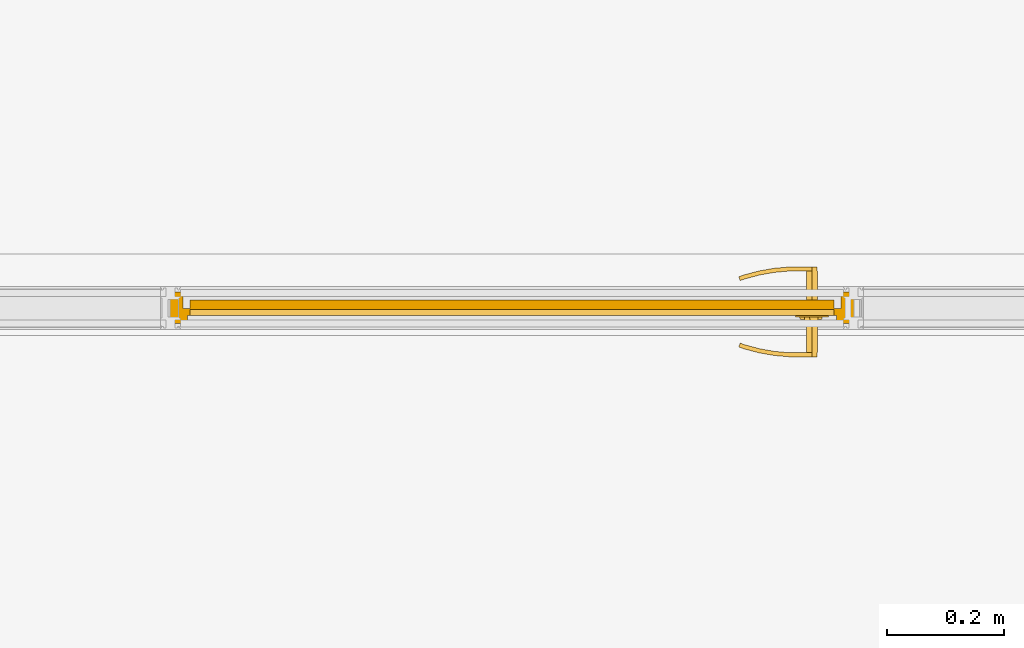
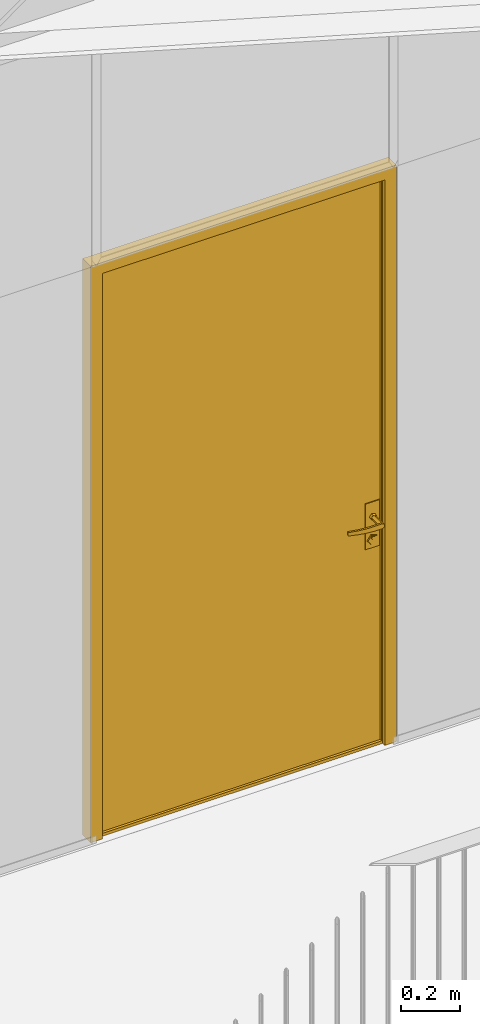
# One storey, part 32 of 43: 1 door, 1 element without a shape of its own.
"""IFC2X3 building model written with IfcOpenShell, lengths in millimetres."""

from ifc_helpers import new_model, entity, si_unit, converted_unit, derived_unit, money_unit, direction, frame, origin_with_axes, place, context, subcontext, project, spatial, open_shell, faceted_brep, surface_model, material, material_list, type_object, element, aggregate, save


model = new_model("IFC2X3")

# Units and contexts
model_context = context("Model", 3, precision=0.01, world=origin_with_axes(), true_north=direction((0.0, 1.0)))
body_context = subcontext(model_context, "Body", "Model", "MODEL_VIEW")
ifc_project = project(units=[si_unit("LENGTHUNIT", "METRE", prefix="MILLI"), si_unit("AREAUNIT", "SQUARE_METRE"), si_unit("VOLUMEUNIT", "CUBIC_METRE"), converted_unit("PLANEANGLEUNIT", "DEGREE", entity("IfcPlaneAngleMeasure", 0.0174532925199), si_unit("PLANEANGLEUNIT", "RADIAN"), dimensions=[0, 0, 0, 0, 0, 0, 0]), si_unit("SOLIDANGLEUNIT", "STERADIAN"), money_unit("EUR"), converted_unit("TIMEUNIT", "Year", entity("IfcTimeMeasure", 31556926.0), si_unit("TIMEUNIT", "SECOND"), dimensions=[0, 0, 1, 0, 0, 0, 0]), si_unit("MASSUNIT", "GRAM", prefix="KILO"), si_unit("THERMODYNAMICTEMPERATUREUNIT", "DEGREE_CELSIUS"), si_unit("LUMINOUSINTENSITYUNIT", "LUMEN"), si_unit("ENERGYUNIT", "JOULE", prefix="MEGA"), derived_unit("THERMALCONDUCTANCEUNIT", [(si_unit("POWERUNIT", "WATT"), 1), (si_unit("LENGTHUNIT", "METRE"), -1), (si_unit("THERMODYNAMICTEMPERATUREUNIT", "KELVIN"), -1)]), derived_unit("SPECIFICHEATCAPACITYUNIT", [(si_unit("ENERGYUNIT", "JOULE"), 1), (si_unit("MASSUNIT", "GRAM", prefix="KILO"), -1), (si_unit("THERMODYNAMICTEMPERATUREUNIT", "KELVIN"), -1)]), derived_unit("MASSDENSITYUNIT", [(si_unit("MASSUNIT", "GRAM", prefix="KILO"), 1), (si_unit("VOLUMEUNIT", "CUBIC_METRE"), -1)])], contexts=[model_context])

# Site, building, storey
site_placement = place(None, origin_with_axes())
site = spatial("IfcSite", under=ifc_project, at=site_placement, Name="L.Koidula tn 11b", CompositionType="ELEMENT")
building_placement = place(site_placement, origin_with_axes())
building = spatial("IfcBuilding", under=site, at=building_placement, Name="Rakvere Riigigümnaasium", CompositionType="ELEMENT")
storey_placement = place(building_placement, frame((0.0, 0.0, 6665.0), z_axis=(0.0, 0.0, 1.0), x_axis=(1.0, 0.0, 0.0)))
storey = spatial("IfcBuildingStorey", under=building, at=storey_placement, Name="3.korrus +6,66", CompositionType="ELEMENT", Elevation=6665.0)

# Curtain wall, door
curtain_wall_type = type_object("IfcCurtainWallType", Name="Curtain Wall Type", PredefinedType="NOTDEFINED")
curtain_wall_placement = place(storey_placement, frame((58878.6347232, 19272.4397072, 0.0), z_axis=(0.0, 0.0, 1.0), x_axis=(1.0, 0.0, 0.0)))
curtain_wall = element("IfcCurtainWall", 1, at=curtain_wall_placement, inside=storey, type_object=curtain_wall_type, Name="SKLF-29")
ifc_material_1 = material(Name="Alumiiniumprofiil")
ifc_material_2 = material(Name="VKR-05_Klaas")
ifc_material_3 = material(Name="ET-07_Teras - Roostevaba")
ifc_material_list = material_list([ifc_material_1, ifc_material_2, ifc_material_3])
door_style = type_object("IfcDoorStyle", Name="Siseklaasfassaad - Klaasuks-Doubleline 17 x 2370 x -5", ConstructionType="NOTDEFINED", OperationType="NOTDEFINED", ParameterTakesPrecedence=False, Sizeable=False)
door_placement = place(curtain_wall_placement, frame((1056.3999989, 0.0, 1200.0), z_axis=(0.0, 0.0, 1.0), x_axis=(-1.0, 0.0, 0.0)))
door = element("IfcDoor", 2, at=door_placement, type_object=door_style, material=ifc_material_list, Name="Panel-Siseklaasf-007", ObjectType="DOOR", context=body_context, shape_type="SurfaceModel", body=[
    faceted_brep([(-601.99999441, 7.5, -1200.0), (-601.99999441, 7.5, 1200.0), (-601.99999441, 21.5, 1200.0), (-601.99999441, 21.5, -1200.0), (-555.99999441, 7.5, -1200.0), (-555.99999441, 7.5, 1154.0), (-555.99999441, 21.5, 1154.0), (-555.99999441, 21.5, -1200.0)], [[[0, 1, 2, 3]], [[0, 4, 5, 1]], [[1, 5, 6, 2]], [[3, 2, 6, 7]], [[4, 0, 3, 7]], [[5, 4, 7, 6]]]),
    faceted_brep([(602.00000559, 7.5, 1200.0), (556.00000559, 7.5, 1154.0), (556.00000559, 21.5, 1154.0), (602.00000559, 21.5, 1200.0), (-601.99999441, 7.5, 1200.0), (-555.99999441, 7.5, 1154.0), (-555.99999441, 21.5, 1154.0), (-601.99999441, 21.5, 1200.0)], [[[0, 1, 2, 3]], [[0, 4, 5, 1]], [[1, 5, 6, 2]], [[3, 2, 6, 7]], [[4, 0, 3, 7]], [[5, 4, 7, 6]]]),
    faceted_brep([(602.00000559, 7.5, -1200.0), (556.00000559, 7.5, -1200.0), (556.00000559, 21.5, -1200.0), (602.00000559, 21.5, -1200.0), (602.00000559, 7.5, 1200.0), (556.00000559, 7.5, 1154.0), (556.00000559, 21.5, 1154.0), (602.00000559, 21.5, 1200.0)], [[[0, 1, 2, 3]], [[0, 4, 5, 1]], [[1, 5, 6, 2]], [[3, 2, 6, 7]], [[4, 0, 3, 7]], [[5, 4, 7, 6]]]),
    faceted_brep([(-601.99999441, -32.5, -1200.0), (-601.99999441, -32.5, 1200.0), (-601.99999441, 7.5, 1200.0), (-601.99999441, 7.5, -1200.0), (-563.99999441, -32.5, -1200.0), (-563.99999441, -32.5, 1162.0), (-563.99999441, 7.5, 1162.0), (-563.99999441, 7.5, -1200.0)], [[[0, 1, 2, 3]], [[0, 4, 5, 1]], [[1, 5, 6, 2]], [[3, 2, 6, 7]], [[4, 0, 3, 7]], [[5, 4, 7, 6]]]),
    faceted_brep([(602.00000559, -32.5, 1200.0), (564.00000559, -32.5, 1162.0), (564.00000559, 7.5, 1162.0), (602.00000559, 7.5, 1200.0), (-601.99999441, -32.5, 1200.0), (-563.99999441, -32.5, 1162.0), (-563.99999441, 7.5, 1162.0), (-601.99999441, 7.5, 1200.0)], [[[0, 1, 2, 3]], [[0, 4, 5, 1]], [[1, 5, 6, 2]], [[3, 2, 6, 7]], [[4, 0, 3, 7]], [[5, 4, 7, 6]]]),
    faceted_brep([(602.00000559, -32.5, -1200.0), (564.00000559, -32.5, -1200.0), (564.00000559, 7.5, -1200.0), (602.00000559, 7.5, -1200.0), (602.00000559, -32.5, 1200.0), (564.00000559, -32.5, 1162.0), (564.00000559, 7.5, 1162.0), (602.00000559, 7.5, 1200.0)], [[[0, 1, 2, 3]], [[0, 4, 5, 1]], [[1, 5, 6, 2]], [[3, 2, 6, 7]], [[4, 0, 3, 7]], [[5, 4, 7, 6]]]),
    faceted_brep([(-601.99999441, -2.5, 1200.0), (602.00000559, -2.5, 1200.0), (602.00000559, 2.5, 1200.0), (-601.99999441, 2.5, 1200.0), (-601.99999441, -2.5, 1185.0), (602.00000559, -2.5, 1185.0), (602.00000559, 2.5, 1185.0), (-601.99999441, 2.5, 1185.0)], [[[0, 1, 2, 3]], [[0, 4, 5, 1]], [[1, 5, 6, 2]], [[3, 2, 6, 7]], [[4, 0, 3, 7]], [[5, 4, 7, 6]]]),
    faceted_brep([(552.00000559, 7.5, -1188.0), (552.00000559, -4.5, -1188.0), (552.00000559, -4.5, 1150.0), (552.00000559, 7.5, 1150.0), (564.00000559, 7.5, -1200.0), (564.00000559, -4.5, -1200.0), (564.00000559, -4.5, 1162.0), (564.00000559, 7.5, 1162.0)], [[[0, 1, 2, 3]], [[4, 5, 1, 0]], [[1, 5, 6, 2]], [[3, 2, 6, 7]], [[0, 3, 7, 4]], [[7, 6, 5, 4]]]),
    faceted_brep([(-563.99999441, 7.5, -1200.0), (-563.99999441, -4.5, -1200.0), (-563.99999441, -4.5, 1162.0), (-563.99999441, 7.5, 1162.0), (-551.99999441, 7.5, -1188.0), (-551.99999441, -4.5, -1188.0), (-551.99999441, -4.5, 1150.0), (-551.99999441, 7.5, 1150.0)], [[[0, 1, 2, 3]], [[4, 5, 1, 0]], [[1, 5, 6, 2]], [[3, 2, 6, 7]], [[0, 3, 7, 4]], [[7, 6, 5, 4]]]),
    faceted_brep([(-563.99999441, 7.5, -1200.0), (-563.99999441, -4.5, -1200.0), (-551.99999441, -4.5, -1188.0), (-551.99999441, 7.5, -1188.0), (564.00000559, 7.5, -1200.0), (564.00000559, -4.5, -1200.0), (552.00000559, -4.5, -1188.0), (552.00000559, 7.5, -1188.0)], [[[0, 1, 2, 3]], [[4, 5, 1, 0]], [[1, 5, 6, 2]], [[3, 2, 6, 7]], [[0, 3, 7, 4]], [[7, 6, 5, 4]]]),
    faceted_brep([(564.00000559, 7.5, 1162.0), (564.00000559, -4.5, 1162.0), (552.00000559, -4.5, 1150.0), (552.00000559, 7.5, 1150.0), (-563.99999441, 7.5, 1162.0), (-563.99999441, -4.5, 1162.0), (-551.99999441, -4.5, 1150.0), (-551.99999441, 7.5, 1150.0)], [[[0, 1, 2, 3]], [[4, 5, 1, 0]], [[1, 5, 6, 2]], [[3, 2, 6, 7]], [[0, 3, 7, 4]], [[7, 6, 5, 4]]]),
    faceted_brep([(552.00000559, -2.5, -1188.0), (552.00000559, -18.5, -1188.0), (-551.99999441, -18.5, -1188.0), (-551.99999441, -2.5, -1188.0), (552.00000559, -2.5, 1150.0), (552.00000559, -18.5, 1150.0), (-551.99999441, -18.5, 1150.0), (-551.99999441, -2.5, 1150.0)], [[[0, 1, 2, 3]], [[4, 5, 1, 0]], [[1, 5, 6, 2]], [[3, 2, 6, 7]], [[0, 3, 7, 4]], [[7, 6, 5, 4]]]),
    faceted_brep([(-542.49999441, -4.5, -178.0), (-542.49999441, -7.5, -178.0), (-485.49999441, -7.5, -178.0), (-485.49999441, -4.5, -178.0), (-542.49999441, -4.5, -368.0), (-542.49999441, -7.5, -368.0), (-485.49999441, -7.5, -368.0), (-485.49999441, -4.5, -368.0)], [[[0, 1, 2, 3]], [[4, 5, 1, 0]], [[1, 5, 6, 2]], [[3, 2, 6, 7]], [[0, 3, 7, 4]], [[7, 6, 5, 4]]]),
    surface_model("IfcShellBasedSurfaceModel", [(-513.99999441, -68.5, -248.0), (-513.99999441, -75.5, -248.0), (-522.660248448, -75.5, -243.0), (-522.660248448, -68.5, -243.0), (-488.99999441, -68.5, -248.0), (-488.99999441, -75.5, -248.0), (-488.99999441, -75.5, -228.0), (-513.99999441, -75.5, -228.0), (-522.660248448, -75.5, -233.0), (-522.660248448, -68.5, -233.0), (-513.99999441, -68.5, -228.0), (-488.99999441, -68.5, -228.0)], [open_shell([[[0, 1, 2, 3]], [[4, 5, 1, 0]], [[1, 5, 6, 7, 8, 2]], [[3, 2, 8, 9]], [[0, 3, 9, 10, 11, 4]], [[10, 7, 6, 11]], [[9, 8, 7, 10]]])]),
    surface_model("IfcShellBasedSurfaceModel", [(-488.99999441, -68.5, -228.0), (-475.596084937, -75.5, -228.392699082), (-475.901711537, -68.5, -228.392699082), (-488.99999441, -75.5, -228.0), (-448.890277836, -73.1635446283, -229.178097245), (-475.901711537, -68.5, -247.607300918), (-488.99999441, -68.5, -248.0), (-488.99999441, -75.5, -248.0), (-475.596084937, -75.5, -247.607300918), (-448.890277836, -73.1635446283, -246.821902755), (-449.804831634, -66.216818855, -229.178097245), (-449.804831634, -66.216818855, -246.821902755), (-422.489729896, -68.5084157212, -246.036504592), (-422.489729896, -68.5084157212, -229.963495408), (-424.006250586, -61.6678329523, -229.963495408), (-424.006250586, -61.6678329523, -246.036504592), (-396.59536523, -61.5700416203, -245.251106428), (-396.59536523, -61.5700416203, -230.748893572), (-398.702311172, -54.8876628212, -230.748893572), (-398.702311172, -54.8876628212, -245.251106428), (-388.538790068, -58.6376880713, -245.0), (-388.538790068, -58.6376880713, -231.0), (-390.829436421, -52.0221707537, -231.0), (-390.829436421, -52.0221707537, -245.0)], [open_shell([[[0, 1, 2]], [[0, 3, 1]], [[2, 1, 4]], [[0, 2, 5, 6]], [[3, 7, 8, 1]], [[1, 8, 9, 4]], [[2, 4, 10]], [[2, 10, 11, 5]], [[5, 7, 6]], [[5, 8, 7]], [[11, 9, 8]], [[4, 9, 12, 13]], [[10, 4, 13]], [[10, 14, 15, 11]], [[11, 8, 5]], [[15, 9, 11]], [[15, 12, 9]], [[13, 12, 16, 17]], [[10, 13, 14]], [[14, 18, 19, 15]], [[19, 12, 15]], [[19, 16, 12]], [[17, 16, 20, 21]], [[14, 13, 17]], [[14, 17, 18]], [[18, 22, 23, 19]], [[23, 16, 19]], [[23, 20, 16]], [[22, 21, 20, 23]], [[18, 17, 21]], [[18, 21, 22]]])]),
    faceted_brep([(-510.291790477, -17.5, -249.412678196), (-509.982773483, -7.5, -250.363734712), (-500.99999441, -7.5, -238.0), (-501.99999441, -17.5, -238.0), (-523.708198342, -17.5, -245.053423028), (-524.517215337, -7.5, -245.64120828), (-524.517215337, -7.5, -230.35879172), (-509.982773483, -7.5, -225.636265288), (-510.291790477, -17.5, -226.587321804), (-523.708198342, -17.5, -230.946576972)], [[[0, 1, 2, 3]], [[4, 5, 1, 0]], [[2, 1, 5, 6, 7]], [[3, 2, 7, 8]], [[3, 8, 9, 4, 0]], [[9, 6, 5, 4]], [[8, 7, 6, 9]]]),
    faceted_brep([(-507.819654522, -11.5, -352.021130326), (-507.201620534, -7.5, -353.923243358), (-491.99999441, -7.5, -333.0), (-493.99999441, -11.5, -333.0), (-530.180334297, -11.5, -344.755705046), (-531.798368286, -7.5, -345.93127555), (-531.798368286, -7.5, -320.06872445), (-507.201620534, -7.5, -312.076756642), (-507.819654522, -11.5, -313.978869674), (-530.180334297, -11.5, -321.244294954)], [[[0, 1, 2, 3]], [[4, 5, 1, 0]], [[2, 1, 5, 6, 7]], [[3, 2, 7, 8]], [[3, 8, 9, 4, 0]], [[9, 6, 5, 4]], [[8, 7, 6, 9]]]),
    faceted_brep([(-511.836875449, -13.5, -330.657395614), (-511.527858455, -11.5, -331.60845213), (-505.99999441, -11.5, -324.0), (-506.99999441, -13.5, -324.0), (-519.66311337, -13.5, -328.114496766), (-520.472130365, -11.5, -328.702282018), (-520.472130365, -11.5, -319.297717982), (-511.527858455, -11.5, -316.39154787), (-511.836875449, -13.5, -317.342604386), (-519.66311337, -13.5, -319.885503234)], [[[0, 1, 2, 3]], [[4, 5, 1, 0]], [[2, 1, 5, 6, 7]], [[3, 2, 7, 8]], [[3, 8, 9, 4, 0]], [[9, 6, 5, 4]], [[8, 7, 6, 9]]]),
    faceted_brep([(-513.99999441, -17.5, -228.0), (-513.99999441, -68.5, -228.0), (-504.489429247, -68.5, -234.909830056), (-504.489429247, -17.5, -234.909830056), (-523.510559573, -17.5, -234.909830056), (-523.510559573, -68.5, -234.909830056), (-519.877846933, -68.5, -246.090169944), (-508.122141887, -68.5, -246.090169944), (-508.122141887, -17.5, -246.090169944), (-519.877846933, -17.5, -246.090169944)], [[[0, 1, 2, 3]], [[4, 5, 1, 0]], [[1, 5, 6, 7, 2]], [[3, 2, 7, 8]], [[0, 3, 8, 9, 4]], [[9, 6, 5, 4]], [[8, 7, 6, 9]]]),
    faceted_brep([(-542.49999441, 7.5, -178.0), (-485.49999441, 7.5, -178.0), (-485.49999441, 10.5, -178.0), (-542.49999441, 10.5, -178.0), (-542.49999441, 7.5, -368.0), (-485.49999441, 7.5, -368.0), (-485.49999441, 10.5, -368.0), (-542.49999441, 10.5, -368.0)], [[[0, 1, 2, 3]], [[0, 4, 5, 1]], [[1, 5, 6, 2]], [[3, 2, 6, 7]], [[4, 0, 3, 7]], [[5, 4, 7, 6]]]),
    surface_model("IfcShellBasedSurfaceModel", [(-513.99999441, 71.5, -248.0), (-522.660248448, 71.5, -243.0), (-522.660248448, 78.5, -243.0), (-513.99999441, 78.5, -248.0), (-488.99999441, 71.5, -248.0), (-488.99999441, 71.5, -228.0), (-513.99999441, 71.5, -228.0), (-522.660248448, 71.5, -233.0), (-522.660248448, 78.5, -233.0), (-513.99999441, 78.5, -228.0), (-488.99999441, 78.5, -228.0), (-488.99999441, 78.5, -248.0)], [open_shell([[[0, 1, 2, 3]], [[0, 4, 5, 6, 7, 1]], [[1, 7, 8, 2]], [[3, 2, 8, 9, 10, 11]], [[4, 0, 3, 11]], [[6, 5, 10, 9]], [[7, 6, 9, 8]]])]),
    surface_model("IfcShellBasedSurfaceModel", [(-488.99999441, 71.5, -228.0), (-475.901711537, 71.5, -228.392699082), (-475.596084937, 78.5, -228.392699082), (-488.99999441, 71.5, -248.0), (-475.901711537, 71.5, -247.607300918), (-448.890277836, 76.1635446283, -229.178097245), (-488.99999441, 78.5, -228.0), (-488.99999441, 78.5, -248.0), (-449.804831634, 69.216818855, -246.821902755), (-449.804831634, 69.216818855, -229.178097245), (-448.890277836, 76.1635446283, -246.821902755), (-475.596084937, 78.5, -247.607300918), (-424.006250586, 64.6678329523, -246.036504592), (-424.006250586, 64.6678329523, -229.963495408), (-422.489729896, 71.5084157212, -229.963495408), (-422.489729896, 71.5084157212, -246.036504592), (-398.702311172, 57.8876628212, -245.251106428), (-398.702311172, 57.8876628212, -230.748893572), (-396.59536523, 64.5700416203, -230.748893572), (-396.59536523, 64.5700416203, -245.251106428), (-390.829436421, 55.0221707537, -245.0), (-390.829436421, 55.0221707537, -231.0), (-388.538790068, 61.6376880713, -231.0), (-388.538790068, 61.6376880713, -245.0)], [open_shell([[[0, 1, 2]], [[0, 3, 4, 1]], [[1, 5, 2]], [[0, 2, 6]], [[4, 3, 7]], [[1, 4, 8, 9]], [[1, 9, 5]], [[2, 5, 10, 11]], [[6, 2, 11, 7]], [[4, 7, 11]], [[8, 4, 11]], [[9, 8, 12, 13]], [[9, 14, 5]], [[5, 14, 15, 10]], [[8, 11, 10]], [[12, 8, 10]], [[13, 12, 16, 17]], [[9, 13, 14]], [[14, 18, 19, 15]], [[12, 10, 15]], [[16, 12, 15]], [[17, 16, 20, 21]], [[13, 17, 18]], [[13, 18, 14]], [[18, 22, 23, 19]], [[16, 15, 19]], [[20, 16, 19]], [[21, 20, 23, 22]], [[17, 21, 22]], [[17, 22, 18]], [[20, 19, 23]]])]),
    faceted_brep([(-510.291790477, 20.5, -249.412678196), (-501.99999441, 20.5, -238.0), (-500.99999441, 10.5, -238.0), (-509.982773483, 10.5, -250.363734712), (-523.708198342, 20.5, -245.053423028), (-523.708198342, 20.5, -230.946576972), (-510.291790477, 20.5, -226.587321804), (-509.982773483, 10.5, -225.636265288), (-524.517215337, 10.5, -230.35879172), (-524.517215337, 10.5, -245.64120828)], [[[0, 1, 2, 3]], [[1, 0, 4, 5, 6]], [[1, 6, 7, 2]], [[2, 7, 8, 9, 3]], [[4, 0, 3, 9]], [[5, 4, 9, 8]], [[6, 5, 8, 7]]]),
    faceted_brep([(-507.819654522, 14.5, -352.021130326), (-493.99999441, 14.5, -333.0), (-491.99999441, 10.5, -333.0), (-507.201620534, 10.5, -353.923243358), (-530.180334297, 14.5, -344.755705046), (-530.180334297, 14.5, -321.244294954), (-507.819654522, 14.5, -313.978869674), (-507.201620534, 10.5, -312.076756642), (-531.798368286, 10.5, -320.06872445), (-531.798368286, 10.5, -345.93127555)], [[[0, 1, 2, 3]], [[1, 0, 4, 5, 6]], [[1, 6, 7, 2]], [[2, 7, 8, 9, 3]], [[4, 0, 3, 9]], [[5, 4, 9, 8]], [[6, 5, 8, 7]]]),
    faceted_brep([(-511.836875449, 16.5, -330.657395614), (-506.99999441, 16.5, -324.0), (-505.99999441, 14.5, -324.0), (-511.527858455, 14.5, -331.60845213), (-519.66311337, 16.5, -328.114496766), (-519.66311337, 16.5, -319.885503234), (-511.836875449, 16.5, -317.342604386), (-511.527858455, 14.5, -316.39154787), (-520.472130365, 14.5, -319.297717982), (-520.472130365, 14.5, -328.702282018)], [[[0, 1, 2, 3]], [[1, 0, 4, 5, 6]], [[1, 6, 7, 2]], [[2, 7, 8, 9, 3]], [[4, 0, 3, 9]], [[5, 4, 9, 8]], [[6, 5, 8, 7]]]),
    faceted_brep([(-513.99999441, 20.5, -228.0), (-504.489429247, 20.5, -234.909830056), (-504.489429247, 71.5, -234.909830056), (-513.99999441, 71.5, -228.0), (-523.510559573, 20.5, -234.909830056), (-519.877846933, 20.5, -246.090169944), (-508.122141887, 20.5, -246.090169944), (-508.122141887, 71.5, -246.090169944), (-519.877846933, 71.5, -246.090169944), (-523.510559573, 71.5, -234.909830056)], [[[0, 1, 2, 3]], [[0, 4, 5, 6, 1]], [[1, 6, 7, 2]], [[3, 2, 7, 8, 9]], [[4, 0, 3, 9]], [[5, 4, 9, 8]], [[6, 5, 8, 7]]]),
])
aggregate(curtain_wall, [door])

save(model, "model.ifc")
